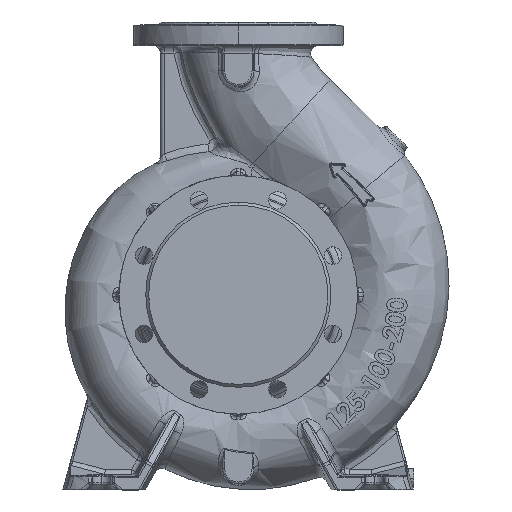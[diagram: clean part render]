
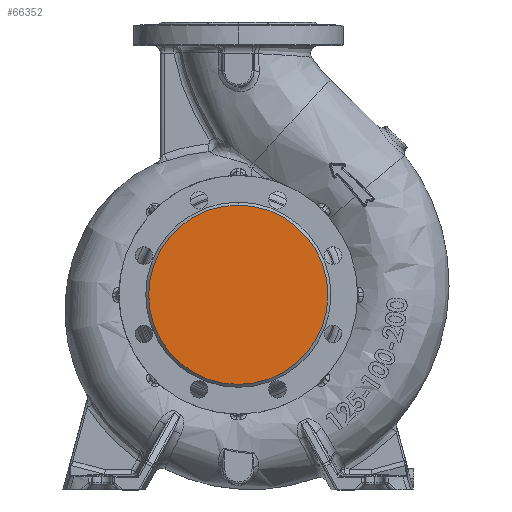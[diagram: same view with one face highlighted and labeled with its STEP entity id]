
A CAD part, top view. The second image highlights one B-rep face of the part: STEP entity #66352.
In plain terms, the highlighted planar face has unit normal (0, 0, 1).
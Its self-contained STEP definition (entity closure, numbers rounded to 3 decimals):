
#3796 = CARTESIAN_POINT ( 'NONE',  ( 0., 0., 125. ) ) ;
#6506 = AXIS2_PLACEMENT_3D ( 'NONE', #86926, #55926, #19447 ) ;
#15157 = VERTEX_POINT ( 'NONE', #81875 ) ;
#19447 = DIRECTION ( 'NONE',  ( 0., -1., 0. ) ) ;
#20248 = CIRCLE ( 'NONE', #33484, 92. ) ;
#25588 = DIRECTION ( 'NONE',  ( 0., 0., 1. ) ) ;
#29084 = AXIS2_PLACEMENT_3D ( 'NONE', #3796, #91923, #40875 ) ;
#33484 = AXIS2_PLACEMENT_3D ( 'NONE', #54962, #25588, #55592 ) ;
#36175 = EDGE_LOOP ( 'NONE', ( #66075, #84960 ) ) ;
#40875 = DIRECTION ( 'NONE',  ( 0., -1., 0. ) ) ;
#42661 = EDGE_CURVE ( 'NONE', #15157, #57144, #72964, .T. ) ;
#44592 = FACE_OUTER_BOUND ( 'NONE', #36175, .T. ) ;
#47978 = PLANE ( 'NONE',  #29084 ) ;
#48423 = CARTESIAN_POINT ( 'NONE',  ( 0., 92., 125. ) ) ;
#54962 = CARTESIAN_POINT ( 'NONE',  ( 0., 0., 125. ) ) ;
#55592 = DIRECTION ( 'NONE',  ( 0., -1., 0. ) ) ;
#55926 = DIRECTION ( 'NONE',  ( 0., 0., 1. ) ) ;
#57144 = VERTEX_POINT ( 'NONE', #48423 ) ;
#66075 = ORIENTED_EDGE ( 'NONE', *, *, #68563, .T. ) ;
#66352 = ADVANCED_FACE ( 'NONE', ( #44592 ), #47978, .T. ) ;
#68563 = EDGE_CURVE ( 'NONE', #57144, #15157, #20248, .T. ) ;
#72964 = CIRCLE ( 'NONE', #6506, 92. ) ;
#81875 = CARTESIAN_POINT ( 'NONE',  ( 0., -92., 125. ) ) ;
#84960 = ORIENTED_EDGE ( 'NONE', *, *, #42661, .T. ) ;
#86926 = CARTESIAN_POINT ( 'NONE',  ( 0., 0., 125. ) ) ;
#91923 = DIRECTION ( 'NONE',  ( 0., 0., 1. ) ) ;
